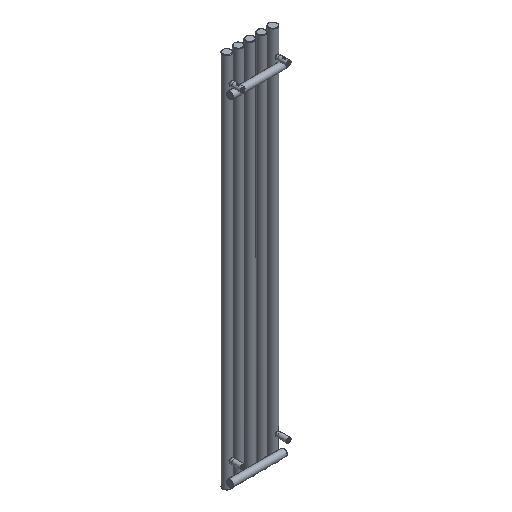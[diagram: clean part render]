
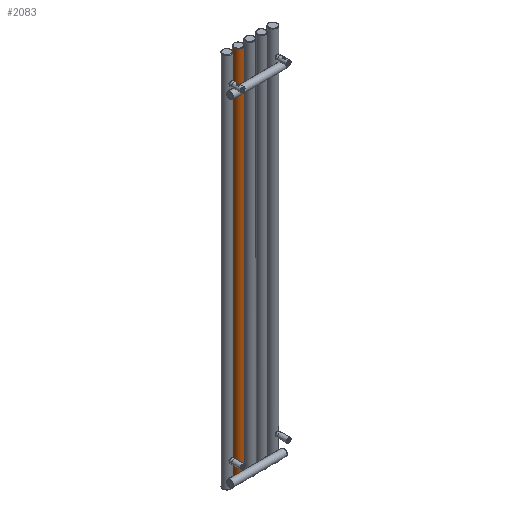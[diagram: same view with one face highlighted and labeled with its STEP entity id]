
A CAD part, isometric view. The second image highlights one B-rep face of the part: STEP entity #2083.
In plain terms, the highlighted cylindrical face has radius 20 mm (diameter 40 mm), a full revolution.
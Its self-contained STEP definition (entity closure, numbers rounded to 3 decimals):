
#167=FACE_BOUND('',#523,.T.);
#168=FACE_BOUND('',#524,.T.);
#198=LINE('',#3826,#272);
#272=VECTOR('',#2588,20.);
#346=CYLINDRICAL_SURFACE('',#2270,20.);
#379=FACE_OUTER_BOUND('',#522,.T.);
#522=EDGE_LOOP('',(#1459,#1460,#1461,#1462,#1463));
#523=EDGE_LOOP('',(#1464));
#524=EDGE_LOOP('',(#1465));
#690=B_SPLINE_CURVE_WITH_KNOTS('',3,(#3800,#3801,#3802,#3803,#3804,#3805,
#3806,#3807,#3808,#3809,#3810,#3811,#3812,#3813,#3814,#3815,#3816,#3817,
#3818,#3819,#3820),.UNSPECIFIED.,.T.,.F.,(4,1,1,1,1,1,1,1,1,1,1,1,1,1,1,
1,1,1,4),(-5.132,-4.765,-4.399,-4.154,
-3.91,-3.788,-3.666,-3.421,
-3.177,-2.933,-2.688,-2.199,
-1.955,-1.711,-1.466,-1.1,
-0.733,-0.367,0.),.UNSPECIFIED.);
#691=B_SPLINE_CURVE_WITH_KNOTS('',3,(#3830,#3831,#3832,#3833,#3834,#3835,
#3836,#3837,#3838,#3839,#3840,#3841,#3842,#3843,#3844,#3845,#3846,#3847,
#3848,#3849,#3850,#3851,#3852,#3853,#3854,#3855,#3856,#3857,#3858,#3859,
#3860,#3861,#3862,#3863,#3864,#3865,#3866,#3867,#3868,#3869,#3870,#3871,
#3872,#3873,#3874,#3875,#3876,#3877,#3878,#3879,#3880,#3881,#3882,#3883,
#3884,#3885,#3886,#3887,#3888,#3889,#3890,#3891,#3892,#3893,#3894,#3895,
#3896),.UNSPECIFIED.,.T.,.F.,(4,3,3,3,3,3,3,3,3,3,3,3,3,3,3,3,3,3,3,3,3,
3,4),(-5.132,-4.765,-4.399,-4.154,
-3.91,-3.666,-3.421,-3.177,
-2.933,-2.688,-2.444,-2.322,
-2.199,-1.955,-1.466,-1.1,
-0.916,-0.825,-0.779,-0.756,
-0.733,-0.367,0.),.UNSPECIFIED.);
#745=CIRCLE('',#2271,20.);
#746=CIRCLE('',#2272,20.);
#747=CIRCLE('',#2273,20.);
#913=VERTEX_POINT('',#3798);
#914=VERTEX_POINT('',#3822);
#915=VERTEX_POINT('',#3823);
#916=VERTEX_POINT('',#3825);
#917=VERTEX_POINT('',#3829);
#1133=EDGE_CURVE('',#913,#913,#690,.T.);
#1134=EDGE_CURVE('',#914,#915,#745,.T.);
#1135=EDGE_CURVE('',#914,#916,#198,.T.);
#1136=EDGE_CURVE('',#916,#916,#746,.T.);
#1137=EDGE_CURVE('',#915,#914,#747,.T.);
#1138=EDGE_CURVE('',#917,#917,#691,.T.);
#1459=ORIENTED_EDGE('',*,*,#1134,.F.);
#1460=ORIENTED_EDGE('',*,*,#1135,.T.);
#1461=ORIENTED_EDGE('',*,*,#1136,.F.);
#1462=ORIENTED_EDGE('',*,*,#1135,.F.);
#1463=ORIENTED_EDGE('',*,*,#1137,.F.);
#1464=ORIENTED_EDGE('',*,*,#1138,.F.);
#1465=ORIENTED_EDGE('',*,*,#1133,.F.);
#2083=ADVANCED_FACE('',(#379,#167,#168),#346,.T.);
#2270=AXIS2_PLACEMENT_3D('',#3821,#2584,#2585);
#2271=AXIS2_PLACEMENT_3D('',#3824,#2586,#2587);
#2272=AXIS2_PLACEMENT_3D('',#3827,#2589,#2590);
#2273=AXIS2_PLACEMENT_3D('',#3828,#2591,#2592);
#2584=DIRECTION('center_axis',(0.,0.,1.));
#2585=DIRECTION('ref_axis',(-1.,0.,0.));
#2586=DIRECTION('center_axis',(0.,0.,1.));
#2587=DIRECTION('ref_axis',(-1.,0.,0.));
#2588=DIRECTION('',(0.,0.,-1.));
#2589=DIRECTION('center_axis',(0.,0.,-1.));
#2590=DIRECTION('ref_axis',(-1.,0.,0.));
#2591=DIRECTION('center_axis',(0.,0.,1.));
#2592=DIRECTION('ref_axis',(-1.,0.,0.));
#3798=CARTESIAN_POINT('',(-165.,-20.,50.1));
#3800=CARTESIAN_POINT('Ctrl Pts',(-165.,-20.,50.1));
#3801=CARTESIAN_POINT('Ctrl Pts',(-166.611,-20.,50.1));
#3802=CARTESIAN_POINT('Ctrl Pts',(-169.837,-19.598,49.587));
#3803=CARTESIAN_POINT('Ctrl Pts',(-173.411,-18.224,47.307));
#3804=CARTESIAN_POINT('Ctrl Pts',(-175.379,-17.114,44.115));
#3805=CARTESIAN_POINT('Ctrl Pts',(-175.993,-16.707,41.396));
#3806=CARTESIAN_POINT('Ctrl Pts',(-175.992,-16.708,39.163));
#3807=CARTESIAN_POINT('Ctrl Pts',(-175.666,-16.921,36.968));
#3808=CARTESIAN_POINT('Ctrl Pts',(-174.649,-17.552,34.429));
#3809=CARTESIAN_POINT('Ctrl Pts',(-172.534,-18.592,32.083));
#3810=CARTESIAN_POINT('Ctrl Pts',(-169.761,-19.505,30.58));
#3811=CARTESIAN_POINT('Ctrl Pts',(-165.581,-20.198,29.637));
#3812=CARTESIAN_POINT('Ctrl Pts',(-161.165,-19.824,30.09));
#3813=CARTESIAN_POINT('Ctrl Pts',(-157.466,-18.588,32.082));
#3814=CARTESIAN_POINT('Ctrl Pts',(-155.351,-17.556,34.43));
#3815=CARTESIAN_POINT('Ctrl Pts',(-153.927,-16.66,37.98));
#3816=CARTESIAN_POINT('Ctrl Pts',(-153.922,-16.66,42.599));
#3817=CARTESIAN_POINT('Ctrl Pts',(-156.137,-18.052,47.027));
#3818=CARTESIAN_POINT('Ctrl Pts',(-160.165,-19.6,49.585));
#3819=CARTESIAN_POINT('Ctrl Pts',(-163.389,-20.,50.1));
#3820=CARTESIAN_POINT('Ctrl Pts',(-165.,-20.,50.1));
#3821=CARTESIAN_POINT('Origin',(-165.,0.,0.));
#3822=CARTESIAN_POINT('',(-145.,0.,1798.));
#3823=CARTESIAN_POINT('',(-185.,0.,1798.));
#3824=CARTESIAN_POINT('Origin',(-165.,0.,1798.));
#3825=CARTESIAN_POINT('',(-145.,0.,2.));
#3826=CARTESIAN_POINT('',(-145.,0.,0.));
#3827=CARTESIAN_POINT('Origin',(-165.,0.,2.));
#3828=CARTESIAN_POINT('Origin',(-165.,0.,1798.));
#3829=CARTESIAN_POINT('',(-165.,-20.,1655.1));
#3830=CARTESIAN_POINT('Ctrl Pts',(-165.,-20.,1655.1));
#3831=CARTESIAN_POINT('Ctrl Pts',(-166.611,-20.,1655.1));
#3832=CARTESIAN_POINT('Ctrl Pts',(-168.224,-19.799,1654.844));
#3833=CARTESIAN_POINT('Ctrl Pts',(-169.701,-19.441,1654.288));
#3834=CARTESIAN_POINT('Ctrl Pts',(-171.178,-19.083,1653.733));
#3835=CARTESIAN_POINT('Ctrl Pts',(-172.518,-18.568,1652.878));
#3836=CARTESIAN_POINT('Ctrl Pts',(-173.56,-18.076,1651.715));
#3837=CARTESIAN_POINT('Ctrl Pts',(-174.255,-17.748,1650.94));
#3838=CARTESIAN_POINT('Ctrl Pts',(-174.817,-17.431,1650.028));
#3839=CARTESIAN_POINT('Ctrl Pts',(-175.221,-17.191,1649.028));
#3840=CARTESIAN_POINT('Ctrl Pts',(-175.625,-16.951,1648.028));
#3841=CARTESIAN_POINT('Ctrl Pts',(-175.87,-16.788,1646.94));
#3842=CARTESIAN_POINT('Ctrl Pts',(-175.952,-16.735,1645.834));
#3843=CARTESIAN_POINT('Ctrl Pts',(-176.034,-16.681,1644.727));
#3844=CARTESIAN_POINT('Ctrl Pts',(-175.952,-16.737,1643.601));
#3845=CARTESIAN_POINT('Ctrl Pts',(-175.707,-16.892,1642.53));
#3846=CARTESIAN_POINT('Ctrl Pts',(-175.463,-17.047,1641.46));
#3847=CARTESIAN_POINT('Ctrl Pts',(-175.056,-17.3,1640.444));
#3848=CARTESIAN_POINT('Ctrl Pts',(-174.5,-17.6,1639.546));
#3849=CARTESIAN_POINT('Ctrl Pts',(-173.944,-17.899,1638.647));
#3850=CARTESIAN_POINT('Ctrl Pts',(-173.239,-18.245,1637.865));
#3851=CARTESIAN_POINT('Ctrl Pts',(-172.424,-18.571,1637.224));
#3852=CARTESIAN_POINT('Ctrl Pts',(-171.61,-18.897,1636.583));
#3853=CARTESIAN_POINT('Ctrl Pts',(-170.685,-19.202,1636.083));
#3854=CARTESIAN_POINT('Ctrl Pts',(-169.701,-19.44,1635.714));
#3855=CARTESIAN_POINT('Ctrl Pts',(-168.716,-19.679,1635.345));
#3856=CARTESIAN_POINT('Ctrl Pts',(-167.67,-19.85,1635.108));
#3857=CARTESIAN_POINT('Ctrl Pts',(-166.606,-19.936,1634.989));
#3858=CARTESIAN_POINT('Ctrl Pts',(-165.541,-20.021,1634.871));
#3859=CARTESIAN_POINT('Ctrl Pts',(-164.458,-20.022,1634.871));
#3860=CARTESIAN_POINT('Ctrl Pts',(-163.393,-19.936,1634.989));
#3861=CARTESIAN_POINT('Ctrl Pts',(-162.861,-19.893,1635.049));
#3862=CARTESIAN_POINT('Ctrl Pts',(-162.333,-19.829,1635.137));
#3863=CARTESIAN_POINT('Ctrl Pts',(-161.816,-19.745,1635.258));
#3864=CARTESIAN_POINT('Ctrl Pts',(-161.299,-19.662,1635.378));
#3865=CARTESIAN_POINT('Ctrl Pts',(-160.792,-19.56,1635.531));
#3866=CARTESIAN_POINT('Ctrl Pts',(-160.299,-19.44,1635.715));
#3867=CARTESIAN_POINT('Ctrl Pts',(-159.313,-19.202,1636.082));
#3868=CARTESIAN_POINT('Ctrl Pts',(-158.384,-18.895,1636.574));
#3869=CARTESIAN_POINT('Ctrl Pts',(-157.57,-18.57,1637.217));
#3870=CARTESIAN_POINT('Ctrl Pts',(-155.943,-17.92,1638.502));
#3871=CARTESIAN_POINT('Ctrl Pts',(-154.78,-17.198,1640.389));
#3872=CARTESIAN_POINT('Ctrl Pts',(-154.288,-16.89,1642.524));
#3873=CARTESIAN_POINT('Ctrl Pts',(-153.919,-16.66,1644.125));
#3874=CARTESIAN_POINT('Ctrl Pts',(-153.927,-16.662,1645.867));
#3875=CARTESIAN_POINT('Ctrl Pts',(-154.294,-16.892,1647.474));
#3876=CARTESIAN_POINT('Ctrl Pts',(-154.477,-17.007,1648.278));
#3877=CARTESIAN_POINT('Ctrl Pts',(-154.75,-17.179,1649.048));
#3878=CARTESIAN_POINT('Ctrl Pts',(-155.111,-17.385,1649.762));
#3879=CARTESIAN_POINT('Ctrl Pts',(-155.291,-17.487,1650.119));
#3880=CARTESIAN_POINT('Ctrl Pts',(-155.494,-17.598,1650.463));
#3881=CARTESIAN_POINT('Ctrl Pts',(-155.716,-17.714,1650.789));
#3882=CARTESIAN_POINT('Ctrl Pts',(-155.827,-17.773,1650.952));
#3883=CARTESIAN_POINT('Ctrl Pts',(-155.943,-17.832,1651.111));
#3884=CARTESIAN_POINT('Ctrl Pts',(-156.064,-17.893,1651.265));
#3885=CARTESIAN_POINT('Ctrl Pts',(-156.124,-17.923,1651.343));
#3886=CARTESIAN_POINT('Ctrl Pts',(-156.186,-17.953,1651.419));
#3887=CARTESIAN_POINT('Ctrl Pts',(-156.249,-17.984,1651.494));
#3888=CARTESIAN_POINT('Ctrl Pts',(-156.312,-18.014,1651.569));
#3889=CARTESIAN_POINT('Ctrl Pts',(-156.376,-18.045,1651.643));
#3890=CARTESIAN_POINT('Ctrl Pts',(-156.441,-18.076,1651.715));
#3891=CARTESIAN_POINT('Ctrl Pts',(-157.483,-18.57,1652.879));
#3892=CARTESIAN_POINT('Ctrl Pts',(-158.823,-19.082,1653.733));
#3893=CARTESIAN_POINT('Ctrl Pts',(-160.299,-19.44,1654.288));
#3894=CARTESIAN_POINT('Ctrl Pts',(-161.776,-19.798,1654.843));
#3895=CARTESIAN_POINT('Ctrl Pts',(-163.389,-20.,1655.1));
#3896=CARTESIAN_POINT('Ctrl Pts',(-165.,-20.,1655.1));
